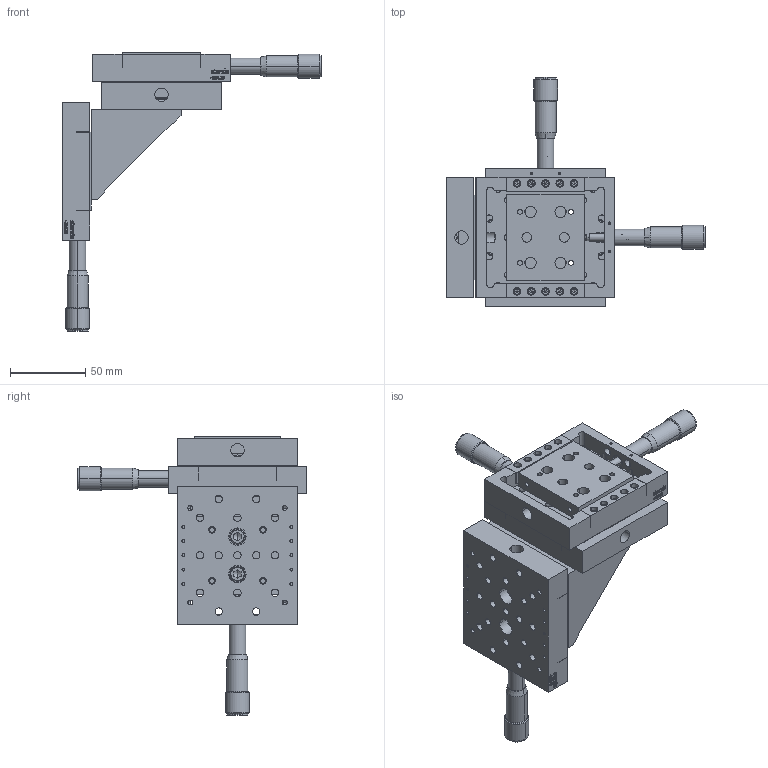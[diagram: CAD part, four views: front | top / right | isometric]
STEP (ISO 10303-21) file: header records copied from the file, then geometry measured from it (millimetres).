
FILE_DESCRIPTION (( 'STEP AP203' ), '1' );
FILE_NAME ('7T67-25XYZ.STEP', '2008-12-23T09:22:13', ( 'Darius' ), ( '' ), 'SwSTEP 2.0', 'SolidWorks 2003240', '' );
FILE_SCHEMA (( 'CONFIG_CONTROL_DESIGN' ));
Length unit declared in the file: millimetre
Products named in the file (1): 7T67-25XYZ
Bounding box: 172.6 x 152.6 x 185.6 mm (x, y, z)
Volume: 414128.3 mm3; surface area: 148852.6 mm2
Topology: 1 solids, 59 shells, 2959 faces, 7682 edges, 4993 vertices
Faces by surface type: plane 1162, cylinder 820, bspline 694, cone 283
Entity records: 103249 total; most frequent: CARTESIAN_POINT 34603, ORIENTED_EDGE 15104, DIRECTION 12385, EDGE_CURVE 7552, VERTEX_POINT 4993, AXIS2_PLACEMENT_3D 4291, VECTOR 3803, LINE 3803
